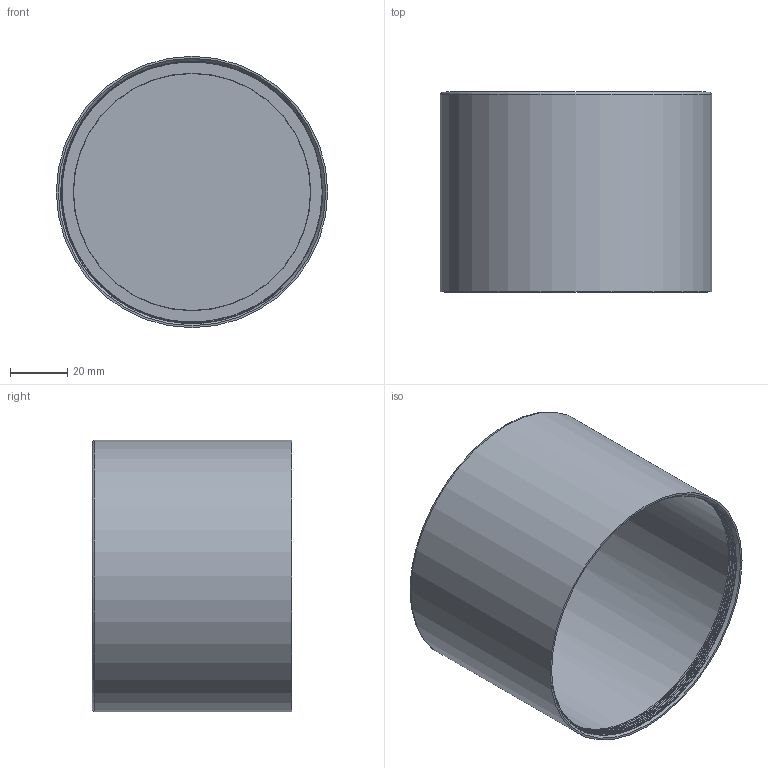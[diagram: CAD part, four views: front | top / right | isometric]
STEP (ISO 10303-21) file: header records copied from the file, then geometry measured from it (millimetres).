
FILE_DESCRIPTION(/* description */ ('Unknown'),/* implementation_level */ '2;1');
FILE_NAME(/* name */ '11704312_Tube M92 hard anodized PMMA',/* time_stamp */ '2021-11-10T14:09:36+01:00',/* author */ ('Unknown'),/* organization */ ('Baumer'),/* preprocessor_version */ 'ST-DEVELOPER v16.7',/* originating_system */ 'Solid Edge',/* authorisation */ 'Unknown');
FILE_SCHEMA (('AUTOMOTIVE_DESIGN {1 0 10303 214 3 1 1}'));
Length unit declared in the file: millimetre
Products named in the file (3): D0001008398-BG Tube M92 hard anodized; D0001008219-Deckglas D88.0x2.0 clear sw bedr; D0001008218-Schutzkappe F3 IP D95
Assembly tree (2 placements, depth 2):
  D0001008398-BG Tube M92 hard anodized
    D0001008219-Deckglas D88.0x2.0 clear sw bedr
    D0001008218-Schutzkappe F3 IP D95
Bounding box: 95 x 70 x 95 mm (x, y, z)
Volume: 52917.7 mm3; surface area: 57606.4 mm2
Topology: 2 solids, 2 shells, 27 faces, 55 edges, 37 vertices
Faces by surface type: cylinder 12, plane 10, bspline 3, cone 1, torus 1
Full cylindrical faces by diameter (mm): 83 x1, 83.2 x1, 85.2 x1, 87 x1, 88 x1, 88.2 x1, 91.188 x4, 95 x1
Entity records: 2444 total; most frequent: CARTESIAN_POINT 1940, DIRECTION 87, ORIENTED_EDGE 58, AXIS2_PLACEMENT_3D 42, EDGE_LOOP 40, FACE_BOUND 40, EDGE_CURVE 29, VERTEX_POINT 25
